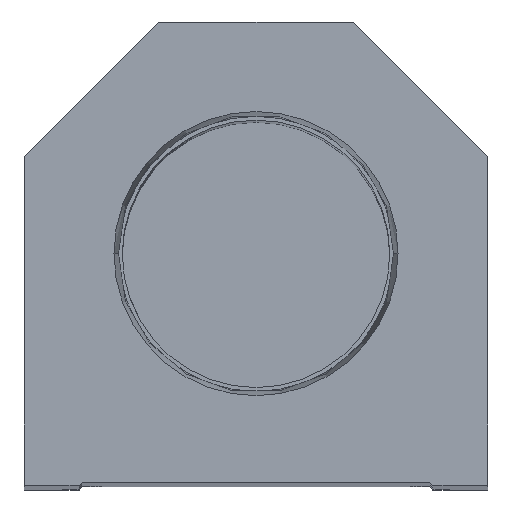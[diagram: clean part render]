
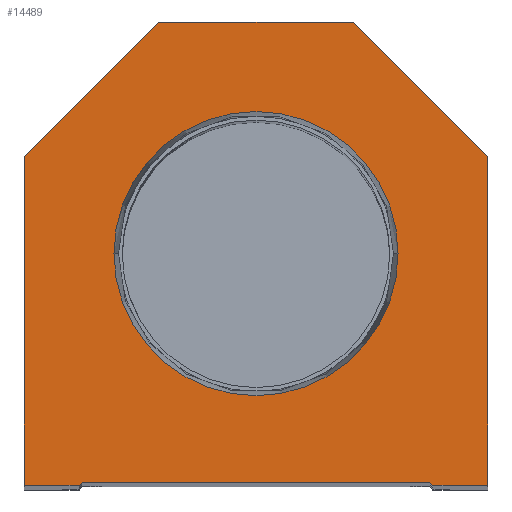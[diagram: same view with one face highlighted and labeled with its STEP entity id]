
A CAD part, top view. The second image highlights one B-rep face of the part: STEP entity #14489.
In plain terms, the highlighted planar face has unit normal (0, 0, 1).
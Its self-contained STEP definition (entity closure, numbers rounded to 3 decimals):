
#51 = VECTOR ( 'NONE', #13878, 1000. ) ;
#386 = ORIENTED_EDGE ( 'NONE', *, *, #5469, .T. ) ;
#515 = VERTEX_POINT ( 'NONE', #11772 ) ;
#542 = VERTEX_POINT ( 'NONE', #10684 ) ;
#590 = VECTOR ( 'NONE', #10364, 1000. ) ;
#592 = EDGE_CURVE ( 'NONE', #6905, #8048, #18180, .T. ) ;
#608 = CARTESIAN_POINT ( 'NONE',  ( -28.6, 0.5, 0. ) ) ;
#895 = VERTEX_POINT ( 'NONE', #16011 ) ;
#974 = VERTEX_POINT ( 'NONE', #14714 ) ;
#1014 = PLANE ( 'NONE',  #11432 ) ;
#1322 = LINE ( 'NONE', #19423, #18810 ) ;
#1471 = VECTOR ( 'NONE', #7683, 1000. ) ;
#1530 = LINE ( 'NONE', #13498, #18470 ) ;
#2072 = CARTESIAN_POINT ( 'NONE',  ( -38.1, 54.1, 0. ) ) ;
#2134 = CARTESIAN_POINT ( 'NONE',  ( 0., 38.1, 0. ) ) ;
#2359 = LINE ( 'NONE', #13570, #16013 ) ;
#2373 = LINE ( 'NONE', #15503, #5533 ) ;
#2800 = CARTESIAN_POINT ( 'NONE',  ( 28.6, 0.5, 0. ) ) ;
#2980 = ORIENTED_EDGE ( 'NONE', *, *, #10986, .T. ) ;
#3120 = AXIS2_PLACEMENT_3D ( 'NONE', #2134, #3531, #9994 ) ;
#3401 = CARTESIAN_POINT ( 'NONE',  ( -14.55, 14.55, 0. ) ) ;
#3531 = DIRECTION ( 'NONE',  ( 0., 0., 1. ) ) ;
#3565 = DIRECTION ( 'NONE',  ( 0.707, -0.707, 0. ) ) ;
#3716 = DIRECTION ( 'NONE',  ( 1., 0., 0. ) ) ;
#3779 = LINE ( 'NONE', #2072, #590 ) ;
#3795 = VECTOR ( 'NONE', #19847, 1000. ) ;
#3975 = ORIENTED_EDGE ( 'NONE', *, *, #15001, .T. ) ;
#4055 = CARTESIAN_POINT ( 'NONE',  ( 38.1, 54.1, 0. ) ) ;
#4422 = CARTESIAN_POINT ( 'NONE',  ( 0., 0., 0. ) ) ;
#4429 = DIRECTION ( 'NONE',  ( 1., 0., 0. ) ) ;
#4739 = FACE_BOUND ( 'NONE', #10442, .T. ) ;
#5069 = ORIENTED_EDGE ( 'NONE', *, *, #5131, .T. ) ;
#5131 = EDGE_CURVE ( 'NONE', #8048, #12997, #1322, .T. ) ;
#5220 = EDGE_CURVE ( 'NONE', #12997, #8985, #1530, .T. ) ;
#5265 = CARTESIAN_POINT ( 'NONE',  ( 28.6, 0., 0. ) ) ;
#5469 = EDGE_CURVE ( 'NONE', #19297, #542, #3779, .T. ) ;
#5533 = VECTOR ( 'NONE', #14335, 1000. ) ;
#5921 = DIRECTION ( 'NONE',  ( 0., 0., 1. ) ) ;
#6035 = CARTESIAN_POINT ( 'NONE',  ( 38.1, 0., 0. ) ) ;
#6892 = CARTESIAN_POINT ( 'NONE',  ( 16., 76.2, 0. ) ) ;
#6905 = VERTEX_POINT ( 'NONE', #11922 ) ;
#7381 = LINE ( 'NONE', #4055, #51 ) ;
#7683 = DIRECTION ( 'NONE',  ( 0., 1., 0. ) ) ;
#8016 = ORIENTED_EDGE ( 'NONE', *, *, #5220, .T. ) ;
#8048 = VERTEX_POINT ( 'NONE', #608 ) ;
#8082 = CIRCLE ( 'NONE', #12971, 23.374 ) ;
#8357 = ORIENTED_EDGE ( 'NONE', *, *, #592, .T. ) ;
#8376 = CARTESIAN_POINT ( 'NONE',  ( -23.374, 38.1, 0. ) ) ;
#8429 = DIRECTION ( 'NONE',  ( -1., 0., 0. ) ) ;
#8465 = ORIENTED_EDGE ( 'NONE', *, *, #17662, .F. ) ;
#8538 = LINE ( 'NONE', #6892, #11791 ) ;
#8803 = DIRECTION ( 'NONE',  ( 0., -1., 0. ) ) ;
#8985 = VERTEX_POINT ( 'NONE', #11904 ) ;
#9994 = DIRECTION ( 'NONE',  ( 1., 0., 0. ) ) ;
#10037 = EDGE_CURVE ( 'NONE', #8985, #10650, #18130, .T. ) ;
#10146 = EDGE_CURVE ( 'NONE', #20037, #19477, #11737, .T. ) ;
#10364 = DIRECTION ( 'NONE',  ( -0.707, -0.707, 0. ) ) ;
#10398 = CARTESIAN_POINT ( 'NONE',  ( 23.374, 38.1, 0. ) ) ;
#10421 = EDGE_CURVE ( 'NONE', #515, #895, #7381, .T. ) ;
#10442 = EDGE_LOOP ( 'NONE', ( #13772, #8465 ) ) ;
#10650 = VERTEX_POINT ( 'NONE', #18058 ) ;
#10684 = CARTESIAN_POINT ( 'NONE',  ( -38.1, 54.1, 0. ) ) ;
#10835 = ORIENTED_EDGE ( 'NONE', *, *, #10421, .T. ) ;
#10986 = EDGE_CURVE ( 'NONE', #974, #6905, #2373, .T. ) ;
#11432 = AXIS2_PLACEMENT_3D ( 'NONE', #4422, #5921, #19417 ) ;
#11737 = CIRCLE ( 'NONE', #3120, 23.374 ) ;
#11772 = CARTESIAN_POINT ( 'NONE',  ( 38.1, 54.1, 0. ) ) ;
#11791 = VECTOR ( 'NONE', #8429, 1000. ) ;
#11904 = CARTESIAN_POINT ( 'NONE',  ( 29.1, 0., 0. ) ) ;
#11922 = CARTESIAN_POINT ( 'NONE',  ( -29.1, 0., 0. ) ) ;
#11926 = DIRECTION ( 'NONE',  ( 0., 0., 1. ) ) ;
#12344 = ORIENTED_EDGE ( 'NONE', *, *, #14280, .T. ) ;
#12971 = AXIS2_PLACEMENT_3D ( 'NONE', #14939, #11926, #3716 ) ;
#12997 = VERTEX_POINT ( 'NONE', #2800 ) ;
#13040 = CARTESIAN_POINT ( 'NONE',  ( -16., 76.2, 0. ) ) ;
#13498 = CARTESIAN_POINT ( 'NONE',  ( 14.55, 14.55, 0. ) ) ;
#13570 = CARTESIAN_POINT ( 'NONE',  ( -38.1, 0., 0. ) ) ;
#13772 = ORIENTED_EDGE ( 'NONE', *, *, #10146, .F. ) ;
#13878 = DIRECTION ( 'NONE',  ( -0.707, 0.707, 0. ) ) ;
#14225 = ORIENTED_EDGE ( 'NONE', *, *, #16744, .T. ) ;
#14280 = EDGE_CURVE ( 'NONE', #895, #19297, #8538, .T. ) ;
#14335 = DIRECTION ( 'NONE',  ( 1., 0., 0. ) ) ;
#14489 = ADVANCED_FACE ( 'NONE', ( #4739, #17617 ), #1014, .T. ) ;
#14558 = ORIENTED_EDGE ( 'NONE', *, *, #10037, .T. ) ;
#14714 = CARTESIAN_POINT ( 'NONE',  ( -38.1, 0., 0. ) ) ;
#14939 = CARTESIAN_POINT ( 'NONE',  ( 0., 38.1, 0. ) ) ;
#15001 = EDGE_CURVE ( 'NONE', #10650, #515, #19431, .T. ) ;
#15503 = CARTESIAN_POINT ( 'NONE',  ( -28.6, 0., 0. ) ) ;
#16011 = CARTESIAN_POINT ( 'NONE',  ( 16., 76.2, 0. ) ) ;
#16013 = VECTOR ( 'NONE', #8803, 1000. ) ;
#16744 = EDGE_CURVE ( 'NONE', #542, #974, #2359, .T. ) ;
#16927 = VECTOR ( 'NONE', #20112, 1000. ) ;
#17617 = FACE_OUTER_BOUND ( 'NONE', #20926, .T. ) ;
#17662 = EDGE_CURVE ( 'NONE', #19477, #20037, #8082, .T. ) ;
#18058 = CARTESIAN_POINT ( 'NONE',  ( 38.1, 0., 0. ) ) ;
#18130 = LINE ( 'NONE', #5265, #3795 ) ;
#18180 = LINE ( 'NONE', #3401, #16927 ) ;
#18470 = VECTOR ( 'NONE', #3565, 1000. ) ;
#18810 = VECTOR ( 'NONE', #4429, 1000. ) ;
#19297 = VERTEX_POINT ( 'NONE', #13040 ) ;
#19417 = DIRECTION ( 'NONE',  ( 1., 0., 0. ) ) ;
#19423 = CARTESIAN_POINT ( 'NONE',  ( -28.6, 0.5, 0. ) ) ;
#19431 = LINE ( 'NONE', #6035, #1471 ) ;
#19477 = VERTEX_POINT ( 'NONE', #8376 ) ;
#19847 = DIRECTION ( 'NONE',  ( 1., 0., 0. ) ) ;
#20037 = VERTEX_POINT ( 'NONE', #10398 ) ;
#20112 = DIRECTION ( 'NONE',  ( 0.707, 0.707, 0. ) ) ;
#20926 = EDGE_LOOP ( 'NONE', ( #2980, #8357, #5069, #8016, #14558, #3975, #10835, #12344, #386, #14225 ) ) ;
